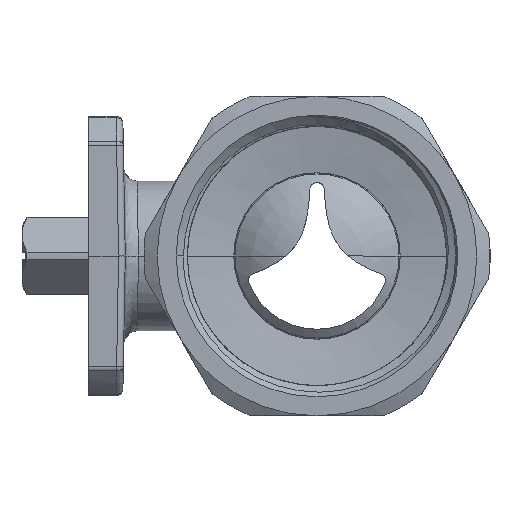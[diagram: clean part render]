
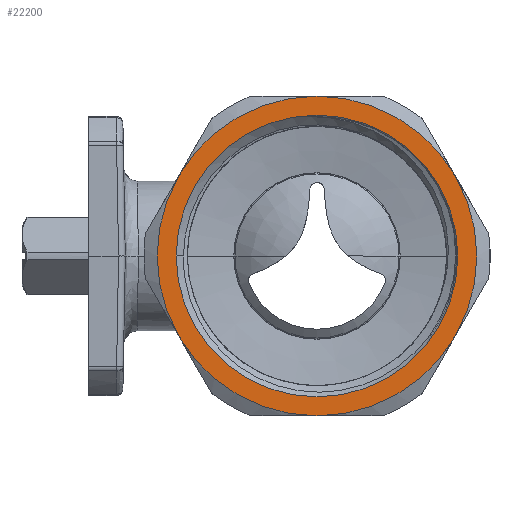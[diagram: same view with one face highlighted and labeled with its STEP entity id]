
A CAD part, left-side view. The second image highlights one B-rep face of the part: STEP entity #22200.
In plain terms, the highlighted planar face has unit normal (-1, 0, 0).
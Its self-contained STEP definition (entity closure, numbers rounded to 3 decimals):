
#204=CARTESIAN_POINT('',(-44.,0.,0.));
#205=DIRECTION('',(-1.,0.,0.));
#206=DIRECTION('',(0.,-0.866,-0.5));
#207=AXIS2_PLACEMENT_3D('',#204,#205,#206);
#228=CARTESIAN_POINT('',(-44.,0.,0.));
#229=DIRECTION('',(1.,0.,0.));
#230=DIRECTION('',(0.,-0.866,-0.5));
#231=AXIS2_PLACEMENT_3D('',#228,#229,#230);
#233=CARTESIAN_POINT('',(-44.,0.,0.));
#234=DIRECTION('',(1.,0.,0.));
#235=DIRECTION('',(0.,0.,-1.));
#236=AXIS2_PLACEMENT_3D('',#233,#234,#235);
#238=CARTESIAN_POINT('',(-44.,0.,0.));
#239=DIRECTION('',(-1.,0.,0.));
#240=DIRECTION('',(0.,0.,1.));
#241=AXIS2_PLACEMENT_3D('',#238,#239,#240);
#243=CARTESIAN_POINT('',(-44.,0.,0.));
#244=DIRECTION('',(-1.,0.,0.));
#245=DIRECTION('',(0.,-0.866,0.5));
#246=AXIS2_PLACEMENT_3D('',#243,#244,#245);
#275=CARTESIAN_POINT('',(-44.,0.,
-24.));
#311=CARTESIAN_POINT('',(-44.,-20.785,
-12.));
#491=CARTESIAN_POINT('',(-44.,20.785,-12.));
#511=CARTESIAN_POINT('',(-44.,0.,0.));
#512=DIRECTION('',(-1.,0.,0.));
#513=DIRECTION('',(0.,0.866,0.5));
#514=AXIS2_PLACEMENT_3D('',#511,#512,#513);
#625=CARTESIAN_POINT('',(-44.,20.785,12.));
#672=CARTESIAN_POINT('',(-44.,0.,24.));
#876=CARTESIAN_POINT('',(-44.,-20.785,12.));
#1057=CARTESIAN_POINT('',(-44.,0.,0.));
#1058=DIRECTION('',(-1.,0.,0.));
#1059=DIRECTION('',(0.,-1.,0.));
#1060=AXIS2_PLACEMENT_3D('',#1057,#1058,#1059);
#1348=CARTESIAN_POINT('',(-44.,0.,0.));
#1349=DIRECTION('',(1.,0.,0.));
#1350=DIRECTION('',(0.,-1.,0.));
#1351=AXIS2_PLACEMENT_3D('',#1348,#1349,#1350);
#21047=CARTESIAN_POINT('',(-44.,-21.15,0.));
#21048=CARTESIAN_POINT('',(-44.,21.15,0.));
#21049=VERTEX_POINT('',#21047);
#21050=VERTEX_POINT('',#21048);
#21056=VERTEX_POINT('',#876);
#21063=VERTEX_POINT('',#672);
#21070=VERTEX_POINT('',#625);
#21073=VERTEX_POINT('',#491);
#21080=VERTEX_POINT('',#275);
#21087=VERTEX_POINT('',#311);
#22176=CARTESIAN_POINT('',(-44.,0.,0.));
#22177=DIRECTION('',(1.,0.,0.));
#22178=DIRECTION('',(0.,-1.,0.));
#22179=AXIS2_PLACEMENT_3D('',#22176,#22177,#22178);
#22180=PLANE('',#22179);
#22181=ORIENTED_EDGE('',*,*,#22162,.F.);
#22183=ORIENTED_EDGE('',*,*,#22182,.T.);
#22185=ORIENTED_EDGE('',*,*,#22184,.T.);
#22187=ORIENTED_EDGE('',*,*,#22186,.F.);
#22189=ORIENTED_EDGE('',*,*,#22188,.F.);
#22191=ORIENTED_EDGE('',*,*,#22190,.F.);
#22192=EDGE_LOOP('',(#22181,#22183,#22185,#22187,#22189,#22191));
#22193=FACE_OUTER_BOUND('',#22192,.F.);
#22195=ORIENTED_EDGE('',*,*,#22194,.T.);
#22197=ORIENTED_EDGE('',*,*,#22196,.F.);
#22198=EDGE_LOOP('',(#22195,#22197));
#22199=FACE_BOUND('',#22198,.F.);
#208=CIRCLE('',#207,24.);
#232=CIRCLE('',#231,24.);
#237=CIRCLE('',#236,24.);
#242=CIRCLE('',#241,24.);
#247=CIRCLE('',#246,24.);
#515=CIRCLE('',#514,24.);
#1061=CIRCLE('',#1060,21.15);
#1352=CIRCLE('',#1351,21.15);
#22162=EDGE_CURVE('',#21087,#21056,#208,.T.);
#22182=EDGE_CURVE('',#21087,#21080,#232,.T.);
#22184=EDGE_CURVE('',#21080,#21073,#237,.T.);
#22186=EDGE_CURVE('',#21070,#21073,#515,.T.);
#22188=EDGE_CURVE('',#21063,#21070,#242,.T.);
#22190=EDGE_CURVE('',#21056,#21063,#247,.T.);
#22194=EDGE_CURVE('',#21049,#21050,#1061,.T.);
#22196=EDGE_CURVE('',#21049,#21050,#1352,.T.);
#22200=ADVANCED_FACE('',(#22193,#22199),#22180,.F.);
